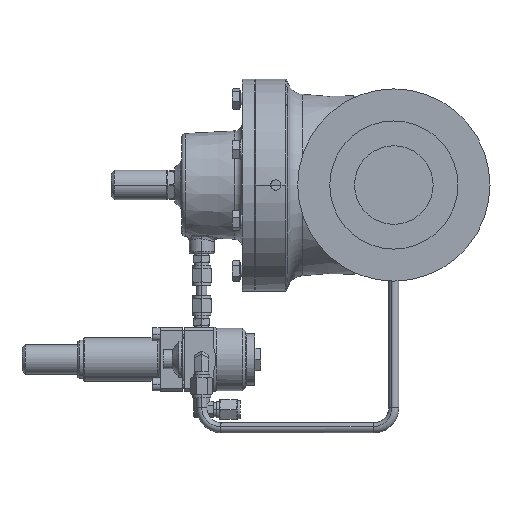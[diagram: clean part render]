
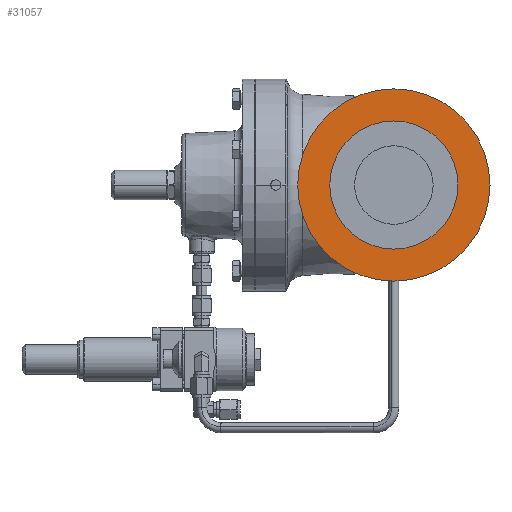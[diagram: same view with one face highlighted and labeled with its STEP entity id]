
A CAD part, left-side view. The second image highlights one B-rep face of the part: STEP entity #31057.
In plain terms, the highlighted planar face has unit normal (-1, 0, 0).
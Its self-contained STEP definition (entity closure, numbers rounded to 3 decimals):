
#4841=CARTESIAN_POINT('',(-147.9,-88.,0.));
#4842=DIRECTION('',(1.,0.,0.));
#4843=DIRECTION('',(0.,1.,0.));
#4844=AXIS2_PLACEMENT_3D('',#4841,#4842,#4843);
#4846=CARTESIAN_POINT('',(-147.9,-88.,0.));
#4847=DIRECTION('',(1.,0.,0.));
#4848=DIRECTION('',(0.,-1.,0.));
#4849=AXIS2_PLACEMENT_3D('',#4846,#4847,#4848);
#4851=CARTESIAN_POINT('',(-147.9,-88.,0.));
#4852=DIRECTION('',(-1.,0.,0.));
#4853=DIRECTION('',(0.,1.,0.));
#4854=AXIS2_PLACEMENT_3D('',#4851,#4852,#4853);
#4856=CARTESIAN_POINT('',(-147.9,-88.,0.));
#4857=DIRECTION('',(-1.,0.,0.));
#4858=DIRECTION('',(0.,-1.,0.));
#4859=AXIS2_PLACEMENT_3D('',#4856,#4857,#4858);
#24129=CARTESIAN_POINT('',(-147.9,7.25,0.));
#24130=CARTESIAN_POINT('',(-147.9,-183.25,0.));
#24131=VERTEX_POINT('',#24129);
#24132=VERTEX_POINT('',#24130);
#24133=CARTESIAN_POINT('',(-147.9,-24.5,0.));
#24134=CARTESIAN_POINT('',(-147.9,-151.5,0.));
#24135=VERTEX_POINT('',#24133);
#24136=VERTEX_POINT('',#24134);
#31042=CARTESIAN_POINT('',(-147.9,-88.,0.));
#31043=DIRECTION('',(-1.,0.,0.));
#31044=DIRECTION('',(0.,1.,0.));
#31045=AXIS2_PLACEMENT_3D('',#31042,#31043,#31044);
#31046=PLANE('',#31045);
#31047=ORIENTED_EDGE('',*,*,#31022,.T.);
#31048=ORIENTED_EDGE('',*,*,#31036,.T.);
#31049=EDGE_LOOP('',(#31047,#31048));
#31050=FACE_OUTER_BOUND('',#31049,.F.);
#31052=ORIENTED_EDGE('',*,*,#31051,.T.);
#31054=ORIENTED_EDGE('',*,*,#31053,.T.);
#31055=EDGE_LOOP('',(#31052,#31054));
#31056=FACE_BOUND('',#31055,.F.);
#31057=ADVANCED_FACE('',(#31050,#31056),#31046,.T.);
#4845=CIRCLE('',#4844,95.25);
#4850=CIRCLE('',#4849,95.25);
#4855=CIRCLE('',#4854,63.5);
#4860=CIRCLE('',#4859,63.5);
#31022=EDGE_CURVE('',#24131,#24132,#4845,.T.);
#31036=EDGE_CURVE('',#24132,#24131,#4850,.T.);
#31051=EDGE_CURVE('',#24135,#24136,#4855,.T.);
#31053=EDGE_CURVE('',#24136,#24135,#4860,.T.);
